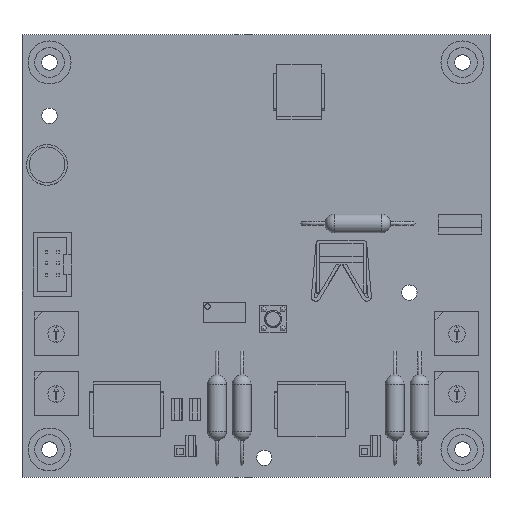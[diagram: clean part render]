
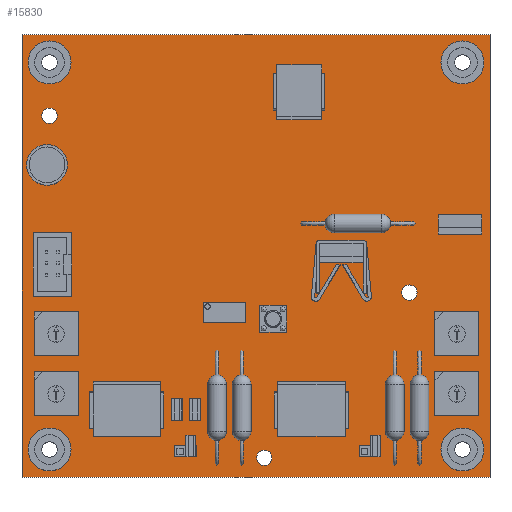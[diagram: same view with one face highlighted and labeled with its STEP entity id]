
A CAD part, top view. The second image highlights one B-rep face of the part: STEP entity #15830.
In plain terms, the highlighted planar face has unit normal (0, 0, 1).
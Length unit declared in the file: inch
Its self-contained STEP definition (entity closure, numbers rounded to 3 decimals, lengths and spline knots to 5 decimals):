
#226=FACE_BOUND('',#2275,.T.);
#227=FACE_BOUND('',#2276,.T.);
#228=FACE_BOUND('',#2277,.T.);
#229=FACE_BOUND('',#2278,.T.);
#230=FACE_BOUND('',#2279,.T.);
#231=FACE_BOUND('',#2280,.T.);
#232=FACE_BOUND('',#2281,.T.);
#1328=FACE_OUTER_BOUND('',#2274,.T.);
#2274=EDGE_LOOP('',(#14172,#14173,#14174,#14175));
#2275=EDGE_LOOP('',(#14176));
#2276=EDGE_LOOP('',(#14177));
#2277=EDGE_LOOP('',(#14178));
#2278=EDGE_LOOP('',(#14179));
#2279=EDGE_LOOP('',(#14180));
#2280=EDGE_LOOP('',(#14181));
#2281=EDGE_LOOP('',(#14182));
#2521=CIRCLE('',#16993,0.07);
#2523=CIRCLE('',#16996,0.07);
#2525=CIRCLE('',#16999,0.11625);
#2527=CIRCLE('',#17002,0.11625);
#2529=CIRCLE('',#17005,0.11625);
#2531=CIRCLE('',#17008,0.07);
#2533=CIRCLE('',#17011,0.11625);
#4361=LINE('',#28398,#6193);
#4364=LINE('',#28404,#6196);
#4367=LINE('',#28410,#6199);
#4370=LINE('',#28414,#6202);
#6193=VECTOR('',#21064,0.3937);
#6196=VECTOR('',#21069,0.3937);
#6199=VECTOR('',#21074,0.3937);
#6202=VECTOR('',#21079,0.3937);
#7626=VERTEX_POINT('',#28350);
#7628=VERTEX_POINT('',#28356);
#7630=VERTEX_POINT('',#28362);
#7632=VERTEX_POINT('',#28368);
#7634=VERTEX_POINT('',#28374);
#7636=VERTEX_POINT('',#28380);
#7638=VERTEX_POINT('',#28386);
#7642=VERTEX_POINT('',#28395);
#7643=VERTEX_POINT('',#28397);
#7645=VERTEX_POINT('',#28403);
#7647=VERTEX_POINT('',#28409);
#9798=EDGE_CURVE('',#7626,#7626,#2521,.T.);
#9801=EDGE_CURVE('',#7628,#7628,#2523,.T.);
#9804=EDGE_CURVE('',#7630,#7630,#2525,.T.);
#9807=EDGE_CURVE('',#7632,#7632,#2527,.T.);
#9810=EDGE_CURVE('',#7634,#7634,#2529,.T.);
#9813=EDGE_CURVE('',#7636,#7636,#2531,.T.);
#9816=EDGE_CURVE('',#7638,#7638,#2533,.T.);
#9821=EDGE_CURVE('',#7643,#7642,#4361,.T.);
#9824=EDGE_CURVE('',#7645,#7643,#4364,.T.);
#9827=EDGE_CURVE('',#7647,#7645,#4367,.T.);
#9830=EDGE_CURVE('',#7642,#7647,#4370,.T.);
#14172=ORIENTED_EDGE('',*,*,#9830,.T.);
#14173=ORIENTED_EDGE('',*,*,#9827,.T.);
#14174=ORIENTED_EDGE('',*,*,#9824,.T.);
#14175=ORIENTED_EDGE('',*,*,#9821,.T.);
#14176=ORIENTED_EDGE('',*,*,#9798,.T.);
#14177=ORIENTED_EDGE('',*,*,#9801,.T.);
#14178=ORIENTED_EDGE('',*,*,#9804,.T.);
#14179=ORIENTED_EDGE('',*,*,#9807,.T.);
#14180=ORIENTED_EDGE('',*,*,#9810,.T.);
#14181=ORIENTED_EDGE('',*,*,#9813,.T.);
#14182=ORIENTED_EDGE('',*,*,#9816,.T.);
#14949=PLANE('',#17017);
#15830=ADVANCED_FACE('',(#1328,#226,#227,#228,#229,#230,#231,#232),#14949,
 .T.);
#16993=AXIS2_PLACEMENT_3D('',#28351,#21013,#21014);
#16996=AXIS2_PLACEMENT_3D('',#28357,#21020,#21021);
#16999=AXIS2_PLACEMENT_3D('',#28363,#21027,#21028);
#17002=AXIS2_PLACEMENT_3D('',#28369,#21034,#21035);
#17005=AXIS2_PLACEMENT_3D('',#28375,#21041,#21042);
#17008=AXIS2_PLACEMENT_3D('',#28381,#21048,#21049);
#17011=AXIS2_PLACEMENT_3D('',#28387,#21055,#21056);
#17017=AXIS2_PLACEMENT_3D('',#28415,#21080,#21081);
#21013=DIRECTION('center_axis',(0.,0.,-1.));
#21014=DIRECTION('ref_axis',(0.814,0.581,0.));
#21020=DIRECTION('center_axis',(0.,0.,-1.));
#21021=DIRECTION('ref_axis',(0.814,0.581,0.));
#21027=DIRECTION('center_axis',(0.,0.,
-1.));
#21028=DIRECTION('ref_axis',(0.814,0.581,0.));
#21034=DIRECTION('center_axis',(0.,0.,
-1.));
#21035=DIRECTION('ref_axis',(0.814,0.581,0.));
#21041=DIRECTION('center_axis',(0.,0.,
-1.));
#21042=DIRECTION('ref_axis',(0.814,0.581,0.));
#21048=DIRECTION('center_axis',(0.,0.,-1.));
#21049=DIRECTION('ref_axis',(0.814,0.581,0.));
#21055=DIRECTION('center_axis',(0.,0.,
-1.));
#21056=DIRECTION('ref_axis',(0.814,0.581,0.));
#21064=DIRECTION('',(1.,0.,0.));
#21069=DIRECTION('',(0.,-1.,0.));
#21074=DIRECTION('',(-1.,0.,0.));
#21079=DIRECTION('',(0.,1.,0.));
#21080=DIRECTION('center_axis',(0.,0.,1.));
#21081=DIRECTION('ref_axis',(1.,0.,0.));
#28350=CARTESIAN_POINT('',(3.9475,2.175,0.1));
#28351=CARTESIAN_POINT('Origin',(4.0175,2.175,0.1));
#28356=CARTESIAN_POINT('',(0.68,3.78,0.1));
#28357=CARTESIAN_POINT('Origin',(0.75,3.78,0.1));
#28362=CARTESIAN_POINT('',(0.63375,4.265,0.1));
#28363=CARTESIAN_POINT('Origin',(0.75,4.265,0.1));
#28368=CARTESIAN_POINT('',(0.63375,0.75,0.1));
#28369=CARTESIAN_POINT('Origin',(0.75,0.75,0.1));
#28374=CARTESIAN_POINT('',(4.38375,4.265,0.1));
#28375=CARTESIAN_POINT('Origin',(4.5,4.265,0.1));
#28380=CARTESIAN_POINT('',(2.63,0.675,0.1));
#28381=CARTESIAN_POINT('Origin',(2.7,0.675,0.1));
#28386=CARTESIAN_POINT('',(4.38375,0.75,0.1));
#28387=CARTESIAN_POINT('Origin',(4.5,0.75,0.1));
#28395=CARTESIAN_POINT('',(4.75,0.5,0.1));
#28397=CARTESIAN_POINT('',(0.5,0.5,0.1));
#28398=CARTESIAN_POINT('',(0.5,0.5,0.1));
#28403=CARTESIAN_POINT('',(0.5,4.515,0.1));
#28404=CARTESIAN_POINT('',(0.5,4.515,0.1));
#28409=CARTESIAN_POINT('',(4.75,4.515,0.1));
#28410=CARTESIAN_POINT('',(4.75,4.515,0.1));
#28414=CARTESIAN_POINT('',(4.75,0.5,0.1));
#28415=CARTESIAN_POINT('Origin',(2.625,0.5,0.1));
